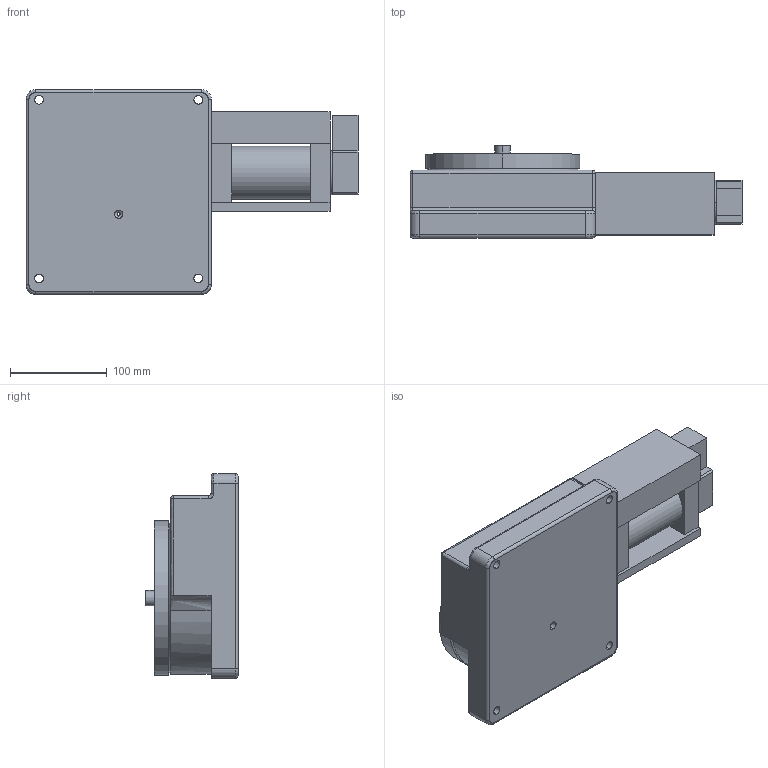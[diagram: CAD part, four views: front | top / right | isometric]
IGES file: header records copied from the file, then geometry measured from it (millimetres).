
Start section: SolidWorks IGES file using analytic representation for surfaces
Global section: file name: F:\grp\iges\grp 160.IGS; native system: SolidWorks 2010; preprocessor: SolidWorks 2010; author: 1edpi; date: 140225.075954; units: millimetre
Bounding box: 344 x 95.5 x 212 mm (x, y, z)
Surface area: 279965.8 mm2 (no closed solid volume)
Topology: 0 solids, 0 shells, 154 faces, 2669 edges, 2669 vertices
Faces by surface type: revolution 82, bspline 72
